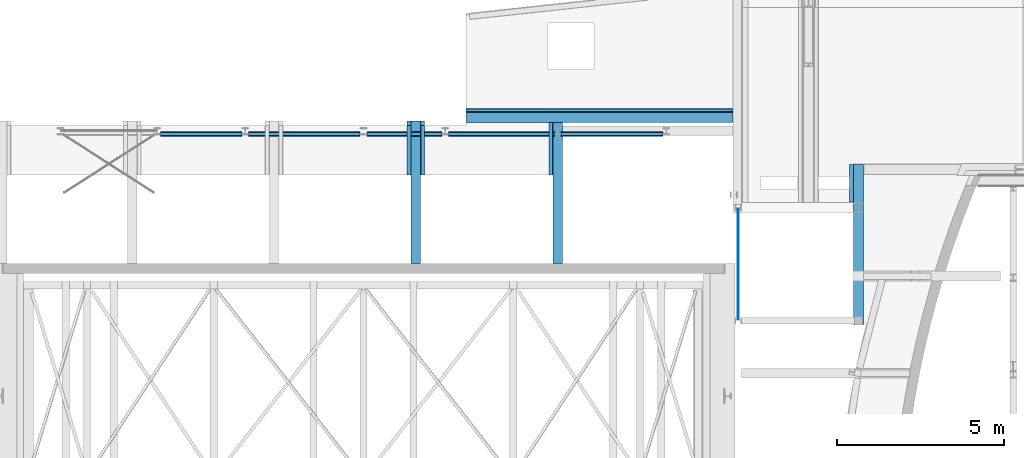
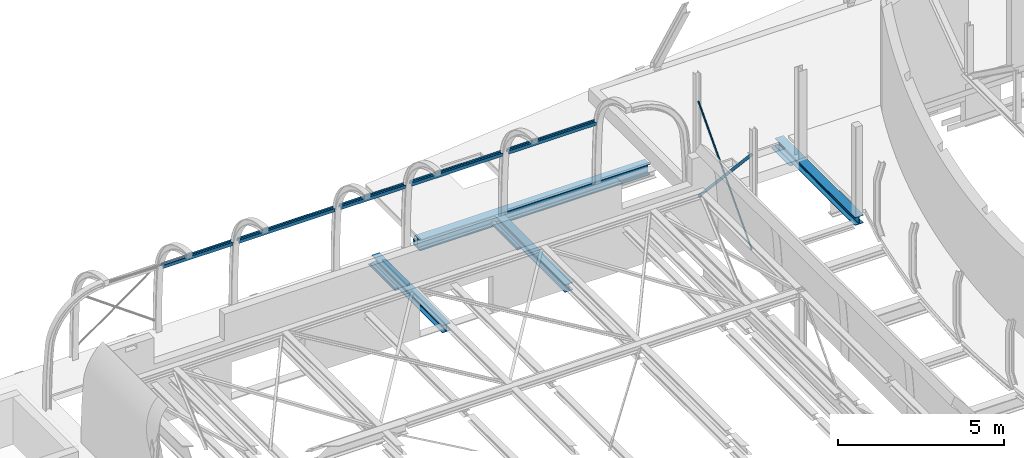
# One storey, part 23 of 38: 15 beams.
"""IFC2X3 building model written with IfcOpenShell, lengths in millimetres."""

from ifc_helpers import new_model, entity, si_unit, converted_unit, derived_unit, direction, frame, frame_2d, origin, place, context, subcontext, project, spatial, polyline, circle_curve, parameter, trimmed, segment, composite_curve, rectangle, i_section, outline, extrude, source, transform, mapped, material, material_list, type_object, type_shapes, element, save


model = new_model("IFC2X3")

# Units and contexts
model_context = context("Model", 3, precision=0.01, world=origin(), true_north=direction((6.12303176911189e-17, 1.0)))
body_context = subcontext(model_context, "Body", "Model", "MODEL_VIEW")
ifc_project = project(units=[si_unit("LENGTHUNIT", "METRE", prefix="MILLI"), si_unit("AREAUNIT", "SQUARE_METRE", prefix="MILLI"), si_unit("VOLUMEUNIT", "CUBIC_METRE"), converted_unit("PLANEANGLEUNIT", "DEGREE", entity("IfcRatioMeasure", 0.0174532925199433), si_unit("PLANEANGLEUNIT", "RADIAN"), dimensions=[0, 0, 0, 0, 0, 0, 0]), si_unit("MASSUNIT", "GRAM", prefix="KILO"), derived_unit("MASSDENSITYUNIT", [(si_unit("MASSUNIT", "GRAM", prefix="KILO"), 1), (si_unit("LENGTHUNIT", "METRE"), -3)]), derived_unit("MOMENTOFINERTIAUNIT", [(si_unit("LENGTHUNIT", "METRE"), 4)]), si_unit("TIMEUNIT", "SECOND"), si_unit("FREQUENCYUNIT", "HERTZ"), si_unit("THERMODYNAMICTEMPERATUREUNIT", "DEGREE_CELSIUS"), derived_unit("THERMALTRANSMITTANCEUNIT", [(si_unit("MASSUNIT", "GRAM", prefix="KILO"), 1), (si_unit("THERMODYNAMICTEMPERATUREUNIT", "KELVIN"), -1), (si_unit("TIMEUNIT", "SECOND"), -3)]), derived_unit("VOLUMETRICFLOWRATEUNIT", [(si_unit("LENGTHUNIT", "METRE"), 3), (si_unit("TIMEUNIT", "SECOND"), -1)]), si_unit("ELECTRICCURRENTUNIT", "AMPERE"), si_unit("ELECTRICVOLTAGEUNIT", "VOLT"), si_unit("POWERUNIT", "WATT"), si_unit("FORCEUNIT", "NEWTON", prefix="KILO"), si_unit("ILLUMINANCEUNIT", "LUX"), si_unit("LUMINOUSFLUXUNIT", "LUMEN"), si_unit("LUMINOUSINTENSITYUNIT", "CANDELA"), derived_unit("USERDEFINED", [(si_unit("MASSUNIT", "GRAM", prefix="KILO"), -1), (si_unit("LENGTHUNIT", "METRE"), -2), (si_unit("TIMEUNIT", "SECOND"), 3), (si_unit("LUMINOUSFLUXUNIT", "LUMEN"), 1)]), derived_unit("LINEARVELOCITYUNIT", [(si_unit("LENGTHUNIT", "METRE"), 1), (si_unit("TIMEUNIT", "SECOND"), -1)]), si_unit("PRESSUREUNIT", "PASCAL"), derived_unit("USERDEFINED", [(si_unit("LENGTHUNIT", "METRE"), -2), (si_unit("MASSUNIT", "GRAM", prefix="KILO"), 1), (si_unit("TIMEUNIT", "SECOND"), -2)]), derived_unit("LINEARFORCEUNIT", [(si_unit("MASSUNIT", "GRAM", prefix="KILO"), 1), (si_unit("LENGTHUNIT", "METRE"), 1), (si_unit("TIMEUNIT", "SECOND"), -2), (si_unit("LENGTHUNIT", "METRE"), -1)]), derived_unit("PLANARFORCEUNIT", [(si_unit("MASSUNIT", "GRAM", prefix="KILO"), 1), (si_unit("LENGTHUNIT", "METRE"), 1), (si_unit("TIMEUNIT", "SECOND"), -2), (si_unit("LENGTHUNIT", "METRE"), -2)])], contexts=[model_context])

# Site, building, storey
site_placement = place(None, origin())
site = spatial("IfcSite", under=ifc_project, at=site_placement, Name="Theater aan de Parade", CompositionType="ELEMENT")
building_placement = place(site_placement, origin())
building = spatial("IfcBuilding", under=site, at=building_placement, Name="Theater aan de Parade", CompositionType="ELEMENT")
storey_placement = place(building_placement, frame((0.0, 0.0, 12480.0)))
storey = spatial("IfcBuildingStorey", under=building, at=storey_placement, Name="03 derde verdieping", CompositionType="ELEMENT", Elevation=12480.0)

# Beams
ifc_material_1 = material(Name="00_PBT_MAT_staal_S355")
beam_type_1 = type_object("IfcBeamType", Name="28_PBT_SF_staal_H-profiel:S355_HE140A", PredefinedType="NOTDEFINED")
beam_1_placement = place(storey_placement, frame((22453.8569986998, 45200.4717966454, 2025.14938682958), z_axis=(0.0, 0.0, 1.0), x_axis=(-1.0, 0.0, 0.0)))
element("IfcBeam", 1, at=beam_1_placement, inside=storey, type_object=beam_type_1, material=ifc_material_1, Name="28_PBT_SF_staal_H-profiel:S355_HE140A", ObjectType="28_PBT_SF_staal_H-profiel:S355_HE140A", context=body_context, shape_type="SweptSolid", body=[
    extrude(outline(composite_curve([segment(polyline([(58.0, -70.0), (66.4999999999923, -70.0)]), True, "CONTINUOUS"), segment(polyline([(66.4999999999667, -70.0), (66.5000000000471, 70.0)]), True, "CONTINUOUS"), segment(polyline([(66.5000000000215, 70.0), (58.0, 70.0)]), True, "CONTINUOUS"), segment(polyline([(58.0, 70.0), (58.0, 14.7499999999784)]), True, "CONTINUOUS"), segment(trimmed(circle_curve(frame_2d((46.0, 14.7499999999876), x_axis=(1.0, 0.0)), 12.000000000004), [parameter(270.000000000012)], [parameter(0.0)], True, "PARAMETER"), False, "CONTINUOUS"), segment(polyline([(46.0, 2.74999999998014), (-46.0, 2.75000000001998)]), True, "CONTINUOUS"), segment(trimmed(circle_curve(frame_2d((-46.0, 14.7500000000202), x_axis=(0.0, -1.0)), 11.9999999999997), [parameter(270.000000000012)], [parameter(0.0)], True, "PARAMETER"), False, "CONTINUOUS"), segment(polyline([(-58.0, 14.7500000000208), (-58.0, 70.0)]), True, "CONTINUOUS"), segment(polyline([(-58.0, 70.0), (-66.4999999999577, 70.0)]), True, "CONTINUOUS"), segment(polyline([(-66.4999999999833, 70.0), (-66.5000000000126, -70.0)]), True, "CONTINUOUS"), segment(polyline([(-66.5000000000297, -70.0), (-58.0, -70.0)]), True, "CONTINUOUS"), segment(polyline([(-58.0, -70.0), (-58.0, -14.7499999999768)]), True, "CONTINUOUS"), segment(trimmed(circle_curve(frame_2d((-46.0, -14.7499999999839), x_axis=(-1.0, 0.0)), 12.000000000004), [parameter(270.000000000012)], [parameter(0.0)], True, "PARAMETER"), False, "CONTINUOUS"), segment(polyline([(-46.0, -2.74999999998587), (46.0, -2.75000000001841)]), True, "CONTINUOUS"), segment(trimmed(circle_curve(frame_2d((46.0, -14.7500000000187), x_axis=(0.0, 1.0)), 11.9999999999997), [parameter(270.000000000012)], [parameter(0.0)], True, "PARAMETER"), False, "CONTINUOUS"), segment(polyline([(58.0, -14.7500000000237), (58.0, -70.0)]), True, "CONTINUOUS")], self_intersect=False)), frame((0.0, -259.729848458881, 44.4145901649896), z_axis=(1.0, 0.0, 0.0), x_axis=(0.0, -0.985692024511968, 0.16855631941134)), (0.0, 0.0, 1.0), 2442.0847298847),
])
beam_2_placement = place(storey_placement, frame((22653.8569986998, 45200.4717966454, 2025.14938682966)))
element("IfcBeam", 2, at=beam_2_placement, inside=storey, type_object=beam_type_1, material=ifc_material_1, Name="28_PBT_SF_staal_H-profiel:S355_HE140A", ObjectType="28_PBT_SF_staal_H-profiel:S355_HE140A", context=body_context, shape_type="SweptSolid", body=[
    extrude(i_section(OverallWidth=140.000000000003, OverallDepth=133.000000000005, WebThickness=5.49999999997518, FlangeThickness=8.5000000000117, FilletRadius=11.9999999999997, at=frame_2d((-8.71835936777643e-12, 3.83693077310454e-13), x_axis=(0.0, 1.0))), frame((0.0, 259.729848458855, 44.4145901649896), z_axis=(1.0, 0.0, 0.0), x_axis=(0.0, -0.985692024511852, -0.168556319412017)), (0.0, 0.0, 1.0), 3350.00000380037),
])
beam_3_placement = place(storey_placement, frame((26203.8570025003, 45200.4717966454, 2025.14938682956)))
element("IfcBeam", 3, at=beam_3_placement, inside=storey, type_object=beam_type_1, material=ifc_material_1, Name="28_PBT_SF_staal_H-profiel:S355_HE140A", ObjectType="28_PBT_SF_staal_H-profiel:S355_HE140A", context=body_context, shape_type="SweptSolid", body=[
    extrude(i_section(OverallWidth=140.000000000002, OverallDepth=133.000000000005, WebThickness=5.49999999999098, FlangeThickness=8.5000000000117, FilletRadius=11.9999999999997, at=frame_2d((-1.84741111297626e-13, -1.06581410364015e-12), x_axis=(0.0, 1.0))), frame((0.0, 259.729848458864, 44.4145901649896), z_axis=(1.0, 0.0, 0.0), x_axis=(0.0, -0.985692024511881, -0.168556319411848)), (0.0, 0.0, 1.0), 2254.49999619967),
])
beam_4_placement = place(storey_placement, frame((28658.3569986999, 45200.4717966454, 2025.14938682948)))
element("IfcBeam", 4, at=beam_4_placement, inside=storey, type_object=beam_type_1, material=ifc_material_1, Name="28_PBT_SF_staal_H-profiel:S355_HE140A", ObjectType="28_PBT_SF_staal_H-profiel:S355_HE140A", context=body_context, shape_type="SweptSolid", body=[
    extrude(i_section(OverallWidth=140.000000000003, OverallDepth=133.000000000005, WebThickness=5.49999999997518, FlangeThickness=8.5000000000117, FilletRadius=11.9999999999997, at=frame_2d((-1.84741111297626e-13, -1.08002495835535e-12), x_axis=(0.0, 1.0))), frame((0.0, 259.729848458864, 44.4145901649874), z_axis=(1.0, 0.0, 0.0), x_axis=(0.0, -0.985692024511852, -0.168556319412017)), (0.0, 0.0, 1.0), 3174.66547607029),
])
beam_5_placement = place(storey_placement, frame((35198.1862556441, 45200.4717966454, 2025.14938682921), z_axis=(0.0, 0.0, 1.0), x_axis=(-1.0, 0.0, 0.0)))
element("IfcBeam", 5, at=beam_5_placement, inside=storey, type_object=beam_type_1, material=ifc_material_1, Name="28_PBT_SF_staal_H-profiel:S355_HE140A", ObjectType="28_PBT_SF_staal_H-profiel:S355_HE140A", context=body_context, shape_type="SweptSolid", body=[
    extrude(outline(composite_curve([segment(polyline([(58.0, -70.0), (66.4999999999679, -70.0)]), True, "CONTINUOUS"), segment(polyline([(66.4999999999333, -70.0), (66.5000000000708, 70.0)]), True, "CONTINUOUS"), segment(polyline([(66.5000000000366, 70.0), (58.0, 70.0)]), True, "CONTINUOUS"), segment(polyline([(58.0, 70.0), (58.0, 14.7499999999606)]), True, "CONTINUOUS"), segment(trimmed(circle_curve(frame_2d((46.0, 14.7499999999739), x_axis=(1.0, 0.0)), 12.000000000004), [parameter(270.000000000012)], [parameter(0.0)], True, "PARAMETER"), False, "CONTINUOUS"), segment(polyline([(46.0, 2.74999999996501), (-46.0, 2.75000000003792)]), True, "CONTINUOUS"), segment(trimmed(circle_curve(frame_2d((-46.0, 14.7500000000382), x_axis=(0.0, -1.0)), 11.9999999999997), [parameter(270.000000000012)], [parameter(0.0)], True, "PARAMETER"), False, "CONTINUOUS"), segment(polyline([(-58.0, 14.7500000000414), (-58.0, 70.0)]), True, "CONTINUOUS"), segment(polyline([(-58.0, 70.0), (-66.499999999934, 70.0)]), True, "CONTINUOUS"), segment(polyline([(-66.4999999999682, 70.0), (-66.500000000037, -70.0)]), True, "CONTINUOUS"), segment(polyline([(-66.5000000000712, -70.0), (-58.0, -70.0)]), True, "CONTINUOUS"), segment(polyline([(-58.0, -70.0), (-58.0, -14.7499999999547)]), True, "CONTINUOUS"), segment(trimmed(circle_curve(frame_2d((-46.0, -14.7499999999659), x_axis=(-1.0, 0.0)), 12.000000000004), [parameter(270.000000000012)], [parameter(0.0)], True, "PARAMETER"), False, "CONTINUOUS"), segment(polyline([(-46.0, -2.74999999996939), (46.0, -2.75000000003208)]), True, "CONTINUOUS"), segment(trimmed(circle_curve(frame_2d((46.0, -14.7500000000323), x_axis=(0.0, 1.0)), 11.9999999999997), [parameter(270.000000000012)], [parameter(0.0)], True, "PARAMETER"), False, "CONTINUOUS"), segment(polyline([(58.0, -14.750000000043), (58.0, -70.0)]), True, "CONTINUOUS")], self_intersect=False)), frame((100.0, -259.729848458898, 44.4145901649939), z_axis=(1.0, 0.0, 0.0), x_axis=(0.0, -0.985692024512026, 0.168556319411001)), (0.0, 0.0, 1.0), 3065.16378087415),
])
ifc_material_2 = material(Name="00_PBT_MAT_staal_S235")
beam_type_2 = type_object("IfcBeamType", Name="28_PBT_SF_staal_koker:S235_K80x120x6.3", PredefinedType="NOTDEFINED")
beam_6_placement = place(storey_placement, frame((27880.9390727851, 44223.3083270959, 0.0), z_axis=(0.0, 0.0, 1.0), x_axis=(0.0, 1.0, 0.0)))
element("IfcBeam", 6, at=beam_6_placement, inside=storey, type_object=beam_type_2, material=ifc_material_2, Name="28_PBT_SF_staal_koker:S235_K80x120x6.3", ObjectType="28_PBT_SF_staal_koker:S235_K80x120x6.3", context=body_context, shape_type="SweptSolid", body=[
    extrude(outline(composite_curve([segment(trimmed(circle_curve(frame_2d((-50.5500000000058, -30.5500000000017), x_axis=(1.0, 0.0)), 9.45), [parameter(180.0)], [parameter(270.0)], True, "PARAMETER"), True, "CONTINUOUS"), segment(polyline([(-50.5500000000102, -40.0), (50.5499999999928, -40.0)]), True, "CONTINUOUS"), segment(trimmed(circle_curve(frame_2d((50.5499999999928, -30.5500000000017), x_axis=(1.0, 0.0)), 9.45), [parameter(270.0)], [parameter(0.0)], True, "PARAMETER"), True, "CONTINUOUS"), segment(polyline([(60.0, -30.5500000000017), (60.0, 30.5499999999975)]), True, "CONTINUOUS"), segment(trimmed(circle_curve(frame_2d((50.5499999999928, 30.5499999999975), x_axis=(1.0, 0.0)), 9.45), [parameter(3.56222124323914e-13)], [parameter(90.0000000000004)], True, "PARAMETER"), True, "CONTINUOUS"), segment(polyline([(50.5499999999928, 40.0), (-50.5500000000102, 40.0)]), True, "CONTINUOUS"), segment(trimmed(circle_curve(frame_2d((-50.5500000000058, 30.5499999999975), x_axis=(1.0, 0.0)), 9.45), [parameter(90.0000000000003)], [parameter(180.0)], True, "PARAMETER"), True, "CONTINUOUS"), segment(polyline([(-60.0, 30.5499999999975), (-60.0, -30.5500000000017)]), True, "CONTINUOUS")], self_intersect=False), holes=[composite_curve([segment(trimmed(circle_curve(frame_2d((47.3999999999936, 27.3999999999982), x_axis=(1.0, 0.0)), 6.3), [parameter(5.08888749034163e-14)], [parameter(90.0000000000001)], True, "PARAMETER"), False, "CONTINUOUS"), segment(polyline([(53.6999999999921, 27.3999999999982), (53.6999999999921, -27.4000000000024)]), True, "CONTINUOUS"), segment(trimmed(circle_curve(frame_2d((47.3999999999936, -27.4000000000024), x_axis=(1.0, 0.0)), 6.3), [parameter(269.999999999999)], [parameter(360.0)], True, "PARAMETER"), False, "CONTINUOUS"), segment(polyline([(47.3999999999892, -33.7000000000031), (-47.4000000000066, -33.7000000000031)]), True, "CONTINUOUS"), segment(trimmed(circle_curve(frame_2d((-47.4000000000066, -27.4000000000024), x_axis=(1.0, 0.0)), 6.3), [parameter(180.0)], [parameter(270.0)], True, "PARAMETER"), False, "CONTINUOUS"), segment(polyline([(-53.7000000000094, -27.4000000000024), (-53.7000000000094, 27.3999999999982)]), True, "CONTINUOUS"), segment(trimmed(circle_curve(frame_2d((-47.4000000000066, 27.3999999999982), x_axis=(1.0, 0.0)), 6.3), [parameter(89.9999999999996)], [parameter(180.0)], True, "PARAMETER"), False, "CONTINUOUS"), segment(polyline([(-47.4000000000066, 33.6999999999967), (47.3999999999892, 33.6999999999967)]), True, "CONTINUOUS")], self_intersect=False)]), frame((0.0, 0.0, -645.0), z_axis=(1.0, 0.0, 0.0), x_axis=(0.0, 1.0, 0.0)), (0.0, 0.0, 1.0), 1499.69167290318),
])
beam_7_placement = place(storey_placement, frame((27470.9390727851, 44223.3083270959, 0.0), z_axis=(0.0, 0.0, 1.0), x_axis=(0.0, 1.0, 0.0)))
element("IfcBeam", 7, at=beam_7_placement, inside=storey, type_object=beam_type_2, material=ifc_material_2, Name="28_PBT_SF_staal_koker:S235_K80x120x6.3", ObjectType="28_PBT_SF_staal_koker:S235_K80x120x6.3", context=body_context, shape_type="SweptSolid", body=[
    extrude(outline(composite_curve([segment(polyline([(-30.5499999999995, -60.0), (30.5499999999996, -60.0)]), True, "CONTINUOUS"), segment(trimmed(circle_curve(frame_2d((30.5499999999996, -50.5499999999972), x_axis=(0.0, 1.0)), 9.45), [parameter(180.0)], [parameter(270.0)], True, "PARAMETER"), True, "CONTINUOUS"), segment(polyline([(40.0, -50.5500000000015), (40.0, 50.5500000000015)]), True, "CONTINUOUS"), segment(trimmed(circle_curve(frame_2d((30.5499999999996, 50.5500000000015), x_axis=(0.0, 1.0)), 9.45), [parameter(270.0)], [parameter(360.0)], True, "PARAMETER"), True, "CONTINUOUS"), segment(polyline([(30.5499999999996, 60.0), (-30.5499999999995, 60.0)]), True, "CONTINUOUS"), segment(trimmed(circle_curve(frame_2d((-30.5499999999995, 50.5500000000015), x_axis=(0.0, 1.0)), 9.45), [parameter(0.0)], [parameter(90.0000000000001)], True, "PARAMETER"), True, "CONTINUOUS"), segment(polyline([(-40.0, 50.5500000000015), (-40.0, -50.5500000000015)]), True, "CONTINUOUS"), segment(trimmed(circle_curve(frame_2d((-30.5499999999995, -50.5499999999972), x_axis=(0.0, 1.0)), 9.45), [parameter(90.0)], [parameter(180.0)], True, "PARAMETER"), True, "CONTINUOUS")], self_intersect=False), holes=[composite_curve([segment(polyline([(33.6999999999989, 47.3999999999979), (33.6999999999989, -47.3999999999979)]), True, "CONTINUOUS"), segment(trimmed(circle_curve(frame_2d((27.4000000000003, -47.3999999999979), x_axis=(0.0, 1.0)), 6.3), [parameter(180.0)], [parameter(270.0)], True, "PARAMETER"), False, "CONTINUOUS"), segment(polyline([(27.4000000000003, -53.7000000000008), (-27.4000000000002, -53.7000000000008)]), True, "CONTINUOUS"), segment(trimmed(circle_curve(frame_2d((-27.4000000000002, -47.3999999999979), x_axis=(0.0, 1.0)), 6.3), [parameter(90.0)], [parameter(180.0)], True, "PARAMETER"), False, "CONTINUOUS"), segment(polyline([(-33.700000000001, -47.3999999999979), (-33.700000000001, 47.3999999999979)]), True, "CONTINUOUS"), segment(trimmed(circle_curve(frame_2d((-27.4000000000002, 47.4000000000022), x_axis=(0.0, 1.0)), 6.3), [parameter(4.07110999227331e-13)], [parameter(90.0000000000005)], True, "PARAMETER"), False, "CONTINUOUS"), segment(polyline([(-27.4000000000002, 53.7000000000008), (27.4000000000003, 53.7000000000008)]), True, "CONTINUOUS"), segment(trimmed(circle_curve(frame_2d((27.4000000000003, 47.4000000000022), x_axis=(0.0, 1.0)), 6.3), [parameter(270.0)], [parameter(360.0)], True, "PARAMETER"), False, "CONTINUOUS")], self_intersect=False)]), frame((0.0, 0.0, -645.0), z_axis=(1.0, 0.0, 0.0), x_axis=(0.0, 0.0, 1.0)), (0.0, 0.0, 1.0), 1499.69167290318),
])
beam_8_placement = place(storey_placement, frame((31728.0224747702, 44223.3083270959, 0.0), z_axis=(0.0, 0.0, 1.0), x_axis=(0.0, 1.0, 0.0)))
element("IfcBeam", 8, at=beam_8_placement, inside=storey, type_object=beam_type_2, material=ifc_material_2, Name="28_PBT_SF_staal_koker:S235_K80x120x6.3", ObjectType="28_PBT_SF_staal_koker:S235_K80x120x6.3", context=body_context, shape_type="SweptSolid", body=[
    extrude(outline(composite_curve([segment(polyline([(-30.5499999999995, -60.0), (30.5499999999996, -60.0)]), True, "CONTINUOUS"), segment(trimmed(circle_curve(frame_2d((30.5499999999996, -50.5499999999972), x_axis=(0.0, 1.0)), 9.45), [parameter(180.0)], [parameter(270.0)], True, "PARAMETER"), True, "CONTINUOUS"), segment(polyline([(40.0, -50.5500000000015), (40.0, 50.5500000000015)]), True, "CONTINUOUS"), segment(trimmed(circle_curve(frame_2d((30.5499999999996, 50.5500000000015), x_axis=(0.0, 1.0)), 9.45), [parameter(270.0)], [parameter(360.0)], True, "PARAMETER"), True, "CONTINUOUS"), segment(polyline([(30.5499999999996, 60.0), (-30.5499999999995, 60.0)]), True, "CONTINUOUS"), segment(trimmed(circle_curve(frame_2d((-30.5499999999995, 50.5500000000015), x_axis=(0.0, 1.0)), 9.45), [parameter(0.0)], [parameter(90.0000000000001)], True, "PARAMETER"), True, "CONTINUOUS"), segment(polyline([(-40.0, 50.5500000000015), (-40.0, -50.5500000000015)]), True, "CONTINUOUS"), segment(trimmed(circle_curve(frame_2d((-30.5499999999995, -50.5499999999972), x_axis=(0.0, 1.0)), 9.45), [parameter(90.0)], [parameter(180.0)], True, "PARAMETER"), True, "CONTINUOUS")], self_intersect=False), holes=[composite_curve([segment(polyline([(33.6999999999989, 47.3999999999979), (33.6999999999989, -47.3999999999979)]), True, "CONTINUOUS"), segment(trimmed(circle_curve(frame_2d((27.4000000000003, -47.3999999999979), x_axis=(0.0, 1.0)), 6.3), [parameter(180.0)], [parameter(270.0)], True, "PARAMETER"), False, "CONTINUOUS"), segment(polyline([(27.4000000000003, -53.7000000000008), (-27.4000000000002, -53.7000000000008)]), True, "CONTINUOUS"), segment(trimmed(circle_curve(frame_2d((-27.4000000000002, -47.3999999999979), x_axis=(0.0, 1.0)), 6.3), [parameter(90.0)], [parameter(180.0)], True, "PARAMETER"), False, "CONTINUOUS"), segment(polyline([(-33.700000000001, -47.3999999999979), (-33.700000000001, 47.3999999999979)]), True, "CONTINUOUS"), segment(trimmed(circle_curve(frame_2d((-27.4000000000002, 47.4000000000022), x_axis=(0.0, 1.0)), 6.3), [parameter(4.07110999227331e-13)], [parameter(90.0000000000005)], True, "PARAMETER"), False, "CONTINUOUS"), segment(polyline([(-27.4000000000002, 53.7000000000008), (27.4000000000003, 53.7000000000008)]), True, "CONTINUOUS"), segment(trimmed(circle_curve(frame_2d((27.4000000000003, 47.4000000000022), x_axis=(0.0, 1.0)), 6.3), [parameter(270.0)], [parameter(360.0)], True, "PARAMETER"), False, "CONTINUOUS")], self_intersect=False)]), frame((0.0, 0.0, -645.0), z_axis=(1.0, 0.0, 0.0), x_axis=(0.0, 0.0, 1.0)), (0.0, 0.0, 1.0), 1576.69167290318),
])
beam_type_3 = type_object("IfcBeamType", Name="28_PBT_SF_staal_koker:S235_K100x200x8", PredefinedType="NOTDEFINED")
beam_9_placement = place(storey_placement, frame((29188.8975663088, 46125.0, 0.0)))
element("IfcBeam", 9, at=beam_9_placement, inside=storey, type_object=beam_type_3, material=ifc_material_2, Name="28_PBT_SF_staal_koker:S235_K100x200x8", ObjectType="28_PBT_SF_staal_koker:S235_K100x200x8", context=body_context, shape_type="SweptSolid", body=[
    extrude(outline(composite_curve([segment(polyline([(-88.0, -50.0), (88.0, -50.0)]), True, "CONTINUOUS"), segment(trimmed(circle_curve(frame_2d((88.0, -38.0), x_axis=(0.0, 1.0)), 12.0), [parameter(180.0)], [parameter(270.0)], True, "PARAMETER"), True, "CONTINUOUS"), segment(polyline([(100.0, -38.0), (100.0, 38.0)]), True, "CONTINUOUS"), segment(trimmed(circle_curve(frame_2d((88.0, 38.0), x_axis=(0.0, 1.0)), 12.0), [parameter(270.0)], [parameter(360.0)], True, "PARAMETER"), True, "CONTINUOUS"), segment(polyline([(88.0, 50.0), (-88.0, 50.0)]), True, "CONTINUOUS"), segment(trimmed(circle_curve(frame_2d((-88.0, 38.0), x_axis=(0.0, 1.0)), 12.0), [parameter(0.0)], [parameter(90.0000000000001)], True, "PARAMETER"), True, "CONTINUOUS"), segment(polyline([(-100.0, 38.0), (-100.0, -38.0)]), True, "CONTINUOUS"), segment(trimmed(circle_curve(frame_2d((-88.0, -38.0), x_axis=(0.0, 1.0)), 12.0), [parameter(89.9999999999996)], [parameter(180.0)], True, "PARAMETER"), True, "CONTINUOUS")], self_intersect=False), holes=[composite_curve([segment(polyline([(92.0, 34.0), (92.0, -34.0)]), True, "CONTINUOUS"), segment(trimmed(circle_curve(frame_2d((84.0, -34.0), x_axis=(0.0, 1.0)), 8.0), [parameter(180.0)], [parameter(270.0)], True, "PARAMETER"), False, "CONTINUOUS"), segment(polyline([(84.0, -42.0), (-84.0, -42.0)]), True, "CONTINUOUS"), segment(trimmed(circle_curve(frame_2d((-84.0, -34.0), x_axis=(0.0, 1.0)), 8.0), [parameter(90.0)], [parameter(180.0)], True, "PARAMETER"), False, "CONTINUOUS"), segment(polyline([(-92.0, -34.0), (-92.0, 34.0)]), True, "CONTINUOUS"), segment(trimmed(circle_curve(frame_2d((-84.0, 34.0), x_axis=(0.0, 1.0)), 8.0), [parameter(3.56222124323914e-13)], [parameter(90.0000000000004)], True, "PARAMETER"), False, "CONTINUOUS"), segment(polyline([(-84.0, 42.0), (84.0, 42.0)]), True, "CONTINUOUS"), segment(trimmed(circle_curve(frame_2d((84.0, 34.0), x_axis=(0.0, 1.0)), 8.0), [parameter(270.0)], [parameter(1.01777749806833e-13)], True, "PARAMETER"), False, "CONTINUOUS")], self_intersect=False)]), frame((0.0, 50.0, -705.0), z_axis=(1.0, 0.0, 0.0), x_axis=(0.0, 0.0, 1.0)), (0.0, 0.0, 1.0), 8014.96056377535),
])
ifc_material_3 = material(Name="00_PBT_MAT_Lucht")
ifc_material_list_1 = material_list([ifc_material_3, ifc_material_1])
beam_type_4 = type_object("IfcBeamType", Name="28_PBT_SF_staal_H-profiel_met_ondergelaste_strip (void):S355_HE280B + ondergelaste strip d=15", PredefinedType="BEAM", material=ifc_material_list_1)
shared_shape_1 = source(origin(), body_context, "Body", "SweptSolid", [
    extrude(i_section(OverallWidth=280.000000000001, OverallDepth=280.000000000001, WebThickness=10.5000000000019, FlangeThickness=18.0000000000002, FilletRadius=23.9999999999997, at=frame_2d((-2.1600499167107e-12, 0.0), x_axis=(1.0, 0.0))), frame((31933.0224747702, 41573.308327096, 11935.0), z_axis=(0.0, 1.0, 0.0), x_axis=(-1.0, 0.0, 0.0)), (0.0, 0.0, 1.0), 4226.69167290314),
    extrude(rectangle(XDim=14.9999999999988, YDim=400.0, at=frame_2d((2.1600499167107e-12, 1.08268949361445e-12), x_axis=(0.0, 1.0))), frame((31868.0224747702, 44223.308327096, 11787.5), z_axis=(0.0, 1.0, 0.0), x_axis=(-1.0, 0.0, 0.0)), (0.0, 0.0, 1.0), 1575.69167290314),
])
type_shapes(beam_type_4, [shared_shape_1])
beam_10_placement = place(storey_placement, frame((0.0, 0.0, -12480.0)))
element("IfcBeam", 10, at=beam_10_placement, inside=storey, type_object=beam_type_4, material=ifc_material_1, Name="28_PBT_SF_staal_H-profiel_met_ondergelaste_strip (void):S355_HE280B + ondergelaste strip d=15", ObjectType="28_PBT_SF_staal_H-profiel_met_ondergelaste_strip (void):S355_HE280B + ondergelaste strip d=15", context=body_context, shape_type="MappedRepresentation", body=[
    mapped(shared_shape_1, transform((0.0, 0.0, 0.0), scale=1.0)),
])
ifc_material_list_2 = material_list([ifc_material_1, ifc_material_3])
beam_type_5 = type_object("IfcBeamType", Name="28_PBT_SF_staal_H-profiel_met_onderplaat (void):S355_HE280B + onderplaat d=15", PredefinedType="BEAM", material=ifc_material_list_2)
shared_shape_2 = source(origin(), body_context, "Body", "SweptSolid", [
    extrude(i_section(OverallWidth=280.000000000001, OverallDepth=280.000000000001, WebThickness=10.5000000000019, FlangeThickness=18.0000000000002, FilletRadius=23.9999999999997, at=frame_2d((-2.1600499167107e-12, 0.0), x_axis=(1.0, 0.0))), frame((27675.9390727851, 41573.308327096, 11935.0), z_axis=(0.0, 1.0, 0.0), x_axis=(-1.0, 0.0, 0.0)), (0.0, 0.0, 1.0), 4274.69167290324),
    extrude(rectangle(XDim=15.0000000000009, YDim=530.000000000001, at=frame_2d((0.0, 1.08268949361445e-12), x_axis=(0.0, 1.0))), frame((27675.9390727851, 44223.308327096, 11787.5), z_axis=(0.0, 1.0, 0.0), x_axis=(-1.0, 0.0, 0.0)), (0.0, 0.0, 1.0), 1624.69167290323),
])
type_shapes(beam_type_5, [shared_shape_2])
beam_11_placement = place(storey_placement, frame((0.0, 0.0, -12480.0)))
element("IfcBeam", 11, at=beam_11_placement, inside=storey, type_object=beam_type_5, material=ifc_material_1, Name="28_PBT_SF_staal_H-profiel_met_onderplaat (void):S355_HE280B + onderplaat d=15", ObjectType="28_PBT_SF_staal_H-profiel_met_onderplaat (void):S355_HE280B + onderplaat d=15", context=body_context, shape_type="MappedRepresentation", body=[
    mapped(shared_shape_2, transform((0.0, 0.0, 0.0), scale=1.0)),
])
ifc_material_list_3 = material_list([ifc_material_3, ifc_material_1])
beam_type_6 = type_object("IfcBeamType", Name="28_PBT_SF_staal_H-profiel_met_ondergelaste_strip (void):S355_HE300B + ondergelaste strip d=12", PredefinedType="BEAM", material=ifc_material_list_3)
shared_shape_3 = source(origin(), body_context, "Body", "SweptSolid", [
    extrude(i_section(OverallWidth=300.000000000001, OverallDepth=300.000000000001, WebThickness=10.9999999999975, FlangeThickness=19.0, FilletRadius=27.0000000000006, at=frame_2d((8.65441052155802e-12, 2.17426077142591e-12), x_axis=(1.0, 0.0))), frame((40963.8581275, 39725.0, 12365.0), z_axis=(0.0, 1.0, 0.0), x_axis=(-1.0, 0.0, 0.0)), (0.0, 0.0, 1.0), 4820.00000559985),
    extrude(rectangle(XDim=11.9999999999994, YDim=420.0, at=frame_2d((-4.33431068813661e-12, -1.0831335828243e-12), x_axis=(0.0, 1.0))), frame((40898.8581275, 43425.0, 12209.0), z_axis=(0.0, 1.0, 0.0), x_axis=(-1.0, 0.0, 0.0)), (0.0, 0.0, 1.0), 1119.00000559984),
])
type_shapes(beam_type_6, [shared_shape_3])
beam_12_placement = place(storey_placement, frame((0.0, 0.0, -12480.0)))
element("IfcBeam", 12, at=beam_12_placement, inside=storey, type_object=beam_type_6, material=ifc_material_1, Name="28_PBT_SF_staal_H-profiel_met_ondergelaste_strip (void):S355_HE300B + ondergelaste strip d=12", ObjectType="28_PBT_SF_staal_H-profiel_met_ondergelaste_strip (void):S355_HE300B + ondergelaste strip d=12", context=body_context, shape_type="MappedRepresentation", body=[
    mapped(shared_shape_3, transform((0.0, 0.0, 0.0), scale=1.0)),
])
ifc_material_list_4 = material_list([ifc_material_3, ifc_material_1])
beam_type_7 = type_object("IfcBeamType", Name="28_PBT_SF_staal_H-profiel_met_ondergelaste_strip (void):S355_HE400B + ondergelaste strip d=15", PredefinedType="BEAM", material=ifc_material_list_4)
shared_shape_4 = source(origin(), body_context, "Body", "SweptSolid", [
    extrude(outline(composite_curve([segment(polyline([(176.0, -150.0), (200.0, -150.0)]), True, "CONTINUOUS"), segment(polyline([(200.0, -150.0), (200.0, 150.0)]), True, "CONTINUOUS"), segment(polyline([(200.0, 150.0), (176.0, 150.0)]), True, "CONTINUOUS"), segment(polyline([(176.0, 150.0), (176.0, 33.7500000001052)]), True, "CONTINUOUS"), segment(trimmed(circle_curve(frame_2d((149.0, 33.7500000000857), x_axis=(1.0, 0.0)), 27.0000000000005), [parameter(270.0)], [parameter(0.0)], True, "PARAMETER"), False, "CONTINUOUS"), segment(polyline([(149.0, 6.75000000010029), (-149.0, 6.74999999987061)]), True, "CONTINUOUS"), segment(trimmed(circle_curve(frame_2d((-149.0, 33.7499999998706), x_axis=(0.0, -1.0)), 27.0000000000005), [parameter(270.0)], [parameter(0.0)], True, "PARAMETER"), False, "CONTINUOUS"), segment(polyline([(-176.0, 33.7499999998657), (-176.0, 150.0)]), True, "CONTINUOUS"), segment(polyline([(-176.0, 150.0), (-200.0, 150.0)]), True, "CONTINUOUS"), segment(polyline([(-200.0, 150.0), (-200.0, -150.0)]), True, "CONTINUOUS"), segment(polyline([(-200.0, -150.0), (-176.0, -150.0)]), True, "CONTINUOUS"), segment(polyline([(-176.0, -150.0), (-176.0, -33.7500000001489)]), True, "CONTINUOUS"), segment(trimmed(circle_curve(frame_2d((-149.0, -33.7500000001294), x_axis=(-1.0, 0.0)), 27.0000000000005), [parameter(270.0)], [parameter(0.0)], True, "PARAMETER"), False, "CONTINUOUS"), segment(polyline([(-149.0, -6.75000000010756), (149.0, -6.74999999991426)]), True, "CONTINUOUS"), segment(trimmed(circle_curve(frame_2d((149.0, -33.7499999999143), x_axis=(0.0, 1.0)), 27.0000000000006), [parameter(270.0)], [parameter(0.0)], True, "PARAMETER"), False, "CONTINUOUS"), segment(polyline([(176.0, -33.7499999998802), (176.0, -150.0)]), True, "CONTINUOUS")], self_intersect=False)), frame((29188.8975663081, 45950.0, 11875.0), z_axis=(1.0, 0.0, 0.0), x_axis=(0.0, 0.0, -1.0)), (0.0, 0.0, 1.0), 8014.96060777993),
    extrude(rectangle(XDim=14.9999999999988, YDim=420.0, at=frame_2d((0.0, -1.30029320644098e-11), x_axis=(1.0, 0.0))), frame((29189.8975663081, 46015.0, 11667.5), z_axis=(1.0, 0.0, 0.0), x_axis=(0.0, 0.0, -1.0)), (0.0, 0.0, 1.0), 8012.96060777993),
])
type_shapes(beam_type_7, [shared_shape_4])
beam_13_placement = place(storey_placement, frame((0.0, 0.0, -12480.0)))
element("IfcBeam", 13, at=beam_13_placement, inside=storey, type_object=beam_type_7, material=ifc_material_1, Name="28_PBT_SF_staal_H-profiel_met_ondergelaste_strip (void):S355_HE400B + ondergelaste strip d=15", ObjectType="28_PBT_SF_staal_H-profiel_met_ondergelaste_strip (void):S355_HE400B + ondergelaste strip d=15", context=body_context, shape_type="MappedRepresentation", body=[
    mapped(shared_shape_4, transform((0.0, 0.0, 0.0), scale=1.0)),
])
ifc_material_4 = material(Name="00_PBT_MAT_staal")
beam_type_8 = type_object("IfcBeamType", Name="28_PBT_SF_staal_strip:strip 10x100", PredefinedType="NOTDEFINED")
beam_14_placement = place(storey_placement, frame((37353.858130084, 39940.0, -56.1469644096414), z_axis=(1.0, 0.0, 0.0), x_axis=(0.0, 0.676987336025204, 0.735994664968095)))
element("IfcBeam", 14, at=beam_14_placement, inside=storey, type_object=beam_type_8, material=ifc_material_4, Name="28_PBT_SF_staal_strip:strip 10x100", ObjectType="28_PBT_SF_staal_strip:strip 10x100", context=body_context, shape_type="SweptSolid", body=[
    extrude(rectangle(XDim=99.9999999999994, YDim=10.0000000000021, at=frame_2d((2.16582307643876e-12, -5.38236122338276e-12), x_axis=(0.0, 1.0))), frame((0.0, 0.0, -5.0), z_axis=(1.0, 0.0, 0.0), x_axis=(0.0, 0.0, -1.0)), (0.0, 0.0, 1.0), 4770.61469536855),
])
beam_15_placement = place(storey_placement, frame((37353.858130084, 43160.0, -56.1469644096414), z_axis=(1.0, 0.0, 0.0), x_axis=(0.0, -0.676987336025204, 0.735994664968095)))
element("IfcBeam", 15, at=beam_15_placement, inside=storey, type_object=beam_type_8, material=ifc_material_4, Name="28_PBT_SF_staal_strip:strip 10x100", ObjectType="28_PBT_SF_staal_strip:strip 10x100", context=body_context, shape_type="SweptSolid", body=[
    extrude(rectangle(XDim=99.9999999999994, YDim=10.0000000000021, at=frame_2d((2.16582307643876e-12, 3.91864318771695e-12), x_axis=(0.0, 1.0))), frame((0.0, 0.0, 5.0), z_axis=(1.0, 0.0, 0.0), x_axis=(0.0, 0.0, -1.0)), (0.0, 0.0, 1.0), 4770.61469536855),
])

save(model, "model.ifc")
